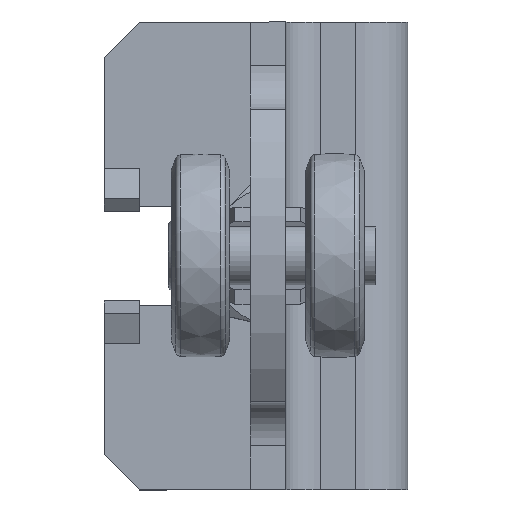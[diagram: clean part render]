
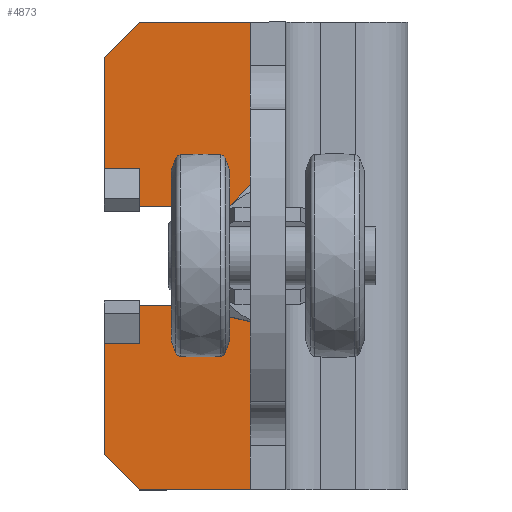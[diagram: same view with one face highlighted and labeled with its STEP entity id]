
A CAD part, top view. The second image highlights one B-rep face of the part: STEP entity #4873.
In plain terms, the highlighted planar face has unit normal (0, 0, 1).
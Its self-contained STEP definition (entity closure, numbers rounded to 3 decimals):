
#276=CIRCLE('',#5319,8.5);
#552=FACE_OUTER_BOUND('',#836,.T.);
#836=EDGE_LOOP('',(#3273,#3274,#3275,#3276,#3277,#3278,#3279,#3280,#3281,
#3282,#3283,#3284,#3285,#3286,#3287,#3288,#3289,#3290));
#1151=LINE('',#7509,#1583);
#1153=LINE('',#7513,#1585);
#1154=LINE('',#7515,#1586);
#1155=LINE('',#7517,#1587);
#1156=LINE('',#7519,#1588);
#1157=LINE('',#7521,#1589);
#1158=LINE('',#7523,#1590);
#1159=LINE('',#7525,#1591);
#1160=LINE('',#7527,#1592);
#1161=LINE('',#7529,#1593);
#1162=LINE('',#7531,#1594);
#1163=LINE('',#7533,#1595);
#1164=LINE('',#7535,#1596);
#1165=LINE('',#7539,#1597);
#1166=LINE('',#7541,#1598);
#1167=LINE('',#7543,#1599);
#1168=LINE('',#7544,#1600);
#1583=VECTOR('',#5934,10.);
#1585=VECTOR('',#5938,10.);
#1586=VECTOR('',#5939,10.);
#1587=VECTOR('',#5940,10.);
#1588=VECTOR('',#5941,10.);
#1589=VECTOR('',#5942,10.);
#1590=VECTOR('',#5943,10.);
#1591=VECTOR('',#5944,10.);
#1592=VECTOR('',#5945,10.);
#1593=VECTOR('',#5946,10.);
#1594=VECTOR('',#5947,10.);
#1595=VECTOR('',#5948,10.);
#1596=VECTOR('',#5949,10.);
#1597=VECTOR('',#5952,10.);
#1598=VECTOR('',#5953,10.);
#1599=VECTOR('',#5954,10.);
#1600=VECTOR('',#5955,10.);
#2012=VERTEX_POINT('',#7493);
#2015=VERTEX_POINT('',#7500);
#2017=VERTEX_POINT('',#7512);
#2018=VERTEX_POINT('',#7514);
#2019=VERTEX_POINT('',#7516);
#2020=VERTEX_POINT('',#7518);
#2021=VERTEX_POINT('',#7520);
#2022=VERTEX_POINT('',#7522);
#2023=VERTEX_POINT('',#7524);
#2024=VERTEX_POINT('',#7526);
#2025=VERTEX_POINT('',#7528);
#2026=VERTEX_POINT('',#7530);
#2027=VERTEX_POINT('',#7532);
#2028=VERTEX_POINT('',#7534);
#2029=VERTEX_POINT('',#7536);
#2030=VERTEX_POINT('',#7538);
#2031=VERTEX_POINT('',#7540);
#2032=VERTEX_POINT('',#7542);
#2509=EDGE_CURVE('',#2012,#2015,#1151,.T.);
#2511=EDGE_CURVE('',#2017,#2015,#1153,.T.);
#2512=EDGE_CURVE('',#2018,#2017,#1154,.T.);
#2513=EDGE_CURVE('',#2019,#2018,#1155,.T.);
#2514=EDGE_CURVE('',#2019,#2020,#1156,.T.);
#2515=EDGE_CURVE('',#2021,#2020,#1157,.T.);
#2516=EDGE_CURVE('',#2022,#2021,#1158,.T.);
#2517=EDGE_CURVE('',#2023,#2022,#1159,.T.);
#2518=EDGE_CURVE('',#2023,#2024,#1160,.T.);
#2519=EDGE_CURVE('',#2024,#2025,#1161,.T.);
#2520=EDGE_CURVE('',#2025,#2026,#1162,.T.);
#2521=EDGE_CURVE('',#2026,#2027,#1163,.T.);
#2522=EDGE_CURVE('',#2028,#2027,#1164,.T.);
#2523=EDGE_CURVE('',#2029,#2028,#276,.T.);
#2524=EDGE_CURVE('',#2030,#2029,#1165,.T.);
#2525=EDGE_CURVE('',#2030,#2031,#1166,.T.);
#2526=EDGE_CURVE('',#2031,#2032,#1167,.T.);
#2527=EDGE_CURVE('',#2032,#2012,#1168,.T.);
#3273=ORIENTED_EDGE('',*,*,#2509,.T.);
#3274=ORIENTED_EDGE('',*,*,#2511,.F.);
#3275=ORIENTED_EDGE('',*,*,#2512,.F.);
#3276=ORIENTED_EDGE('',*,*,#2513,.F.);
#3277=ORIENTED_EDGE('',*,*,#2514,.T.);
#3278=ORIENTED_EDGE('',*,*,#2515,.F.);
#3279=ORIENTED_EDGE('',*,*,#2516,.F.);
#3280=ORIENTED_EDGE('',*,*,#2517,.F.);
#3281=ORIENTED_EDGE('',*,*,#2518,.T.);
#3282=ORIENTED_EDGE('',*,*,#2519,.T.);
#3283=ORIENTED_EDGE('',*,*,#2520,.T.);
#3284=ORIENTED_EDGE('',*,*,#2521,.T.);
#3285=ORIENTED_EDGE('',*,*,#2522,.F.);
#3286=ORIENTED_EDGE('',*,*,#2523,.F.);
#3287=ORIENTED_EDGE('',*,*,#2524,.F.);
#3288=ORIENTED_EDGE('',*,*,#2525,.T.);
#3289=ORIENTED_EDGE('',*,*,#2526,.T.);
#3290=ORIENTED_EDGE('',*,*,#2527,.T.);
#4721=PLANE('',#5318);
#4873=ADVANCED_FACE('',(#552),#4721,.T.);
#5318=AXIS2_PLACEMENT_3D('',#7511,#5936,#5937);
#5319=AXIS2_PLACEMENT_3D('',#7537,#5950,#5951);
#5934=DIRECTION('',(-1.,0.,0.));
#5936=DIRECTION('center_axis',(0.,0.,1.));
#5937=DIRECTION('ref_axis',(1.,0.,0.));
#5938=DIRECTION('',(0.,1.,0.));
#5939=DIRECTION('',(-0.707,0.707,0.));
#5940=DIRECTION('',(-1.,0.,0.));
#5941=DIRECTION('',(0.,1.,0.));
#5942=DIRECTION('',(1.,0.,0.));
#5943=DIRECTION('',(0.707,0.707,0.));
#5944=DIRECTION('',(0.,1.,0.));
#5945=DIRECTION('',(1.,0.,0.));
#5946=DIRECTION('',(0.,1.,0.));
#5947=DIRECTION('',(1.,0.,0.));
#5948=DIRECTION('',(0.,-1.,0.));
#5949=DIRECTION('',(-1.,0.,0.));
#5950=DIRECTION('center_axis',(0.,0.,1.));
#5951=DIRECTION('ref_axis',(0.,-1.,0.));
#5952=DIRECTION('',(1.,0.,0.));
#5953=DIRECTION('',(0.,-1.,0.));
#5954=DIRECTION('',(-1.,0.,0.));
#5955=DIRECTION('',(0.,1.,0.));
#7493=CARTESIAN_POINT('',(-24.,-14.99,0.));
#7500=CARTESIAN_POINT('',(-30.,-14.99,0.));
#7509=CARTESIAN_POINT('',(-2.54,-14.99,0.));
#7511=CARTESIAN_POINT('Origin',(24.919,0.,0.));
#7512=CARTESIAN_POINT('',(-30.,-34.,0.));
#7513=CARTESIAN_POINT('',(-30.,-34.,0.));
#7514=CARTESIAN_POINT('',(-24.,-40.,0.));
#7515=CARTESIAN_POINT('',(-24.,-40.,0.));
#7516=CARTESIAN_POINT('',(13.,-40.,0.));
#7517=CARTESIAN_POINT('',(64.,-40.,0.));
#7518=CARTESIAN_POINT('',(13.,40.,0.));
#7519=CARTESIAN_POINT('',(13.,20.,0.));
#7520=CARTESIAN_POINT('',(-24.,40.,0.));
#7521=CARTESIAN_POINT('',(-24.,40.,0.));
#7522=CARTESIAN_POINT('',(-30.,34.,0.));
#7523=CARTESIAN_POINT('',(-30.,34.,0.));
#7524=CARTESIAN_POINT('',(-30.,14.99,0.));
#7525=CARTESIAN_POINT('',(-30.,8.5,0.));
#7526=CARTESIAN_POINT('',(-24.,14.99,0.));
#7527=CARTESIAN_POINT('',(0.46,14.99,0.));
#7528=CARTESIAN_POINT('',(-24.,15.,0.));
#7529=CARTESIAN_POINT('',(-24.,7.5,0.));
#7530=CARTESIAN_POINT('',(-23.99,15.,0.));
#7531=CARTESIAN_POINT('',(0.465,15.,0.));
#7532=CARTESIAN_POINT('',(-23.99,8.5,0.));
#7533=CARTESIAN_POINT('',(-23.99,4.25,0.));
#7534=CARTESIAN_POINT('',(0.,8.5,0.));
#7535=CARTESIAN_POINT('',(0.,8.5,0.));
#7536=CARTESIAN_POINT('',(0.,-8.5,0.));
#7537=CARTESIAN_POINT('Origin',(0.,0.,0.));
#7538=CARTESIAN_POINT('',(-23.99,-8.5,0.));
#7539=CARTESIAN_POINT('',(-30.,-8.5,0.));
#7540=CARTESIAN_POINT('',(-23.99,-15.,0.));
#7541=CARTESIAN_POINT('',(-23.99,-7.5,0.));
#7542=CARTESIAN_POINT('',(-24.,-15.,0.));
#7543=CARTESIAN_POINT('',(0.46,-15.,0.));
#7544=CARTESIAN_POINT('',(-24.,-4.25,0.));
